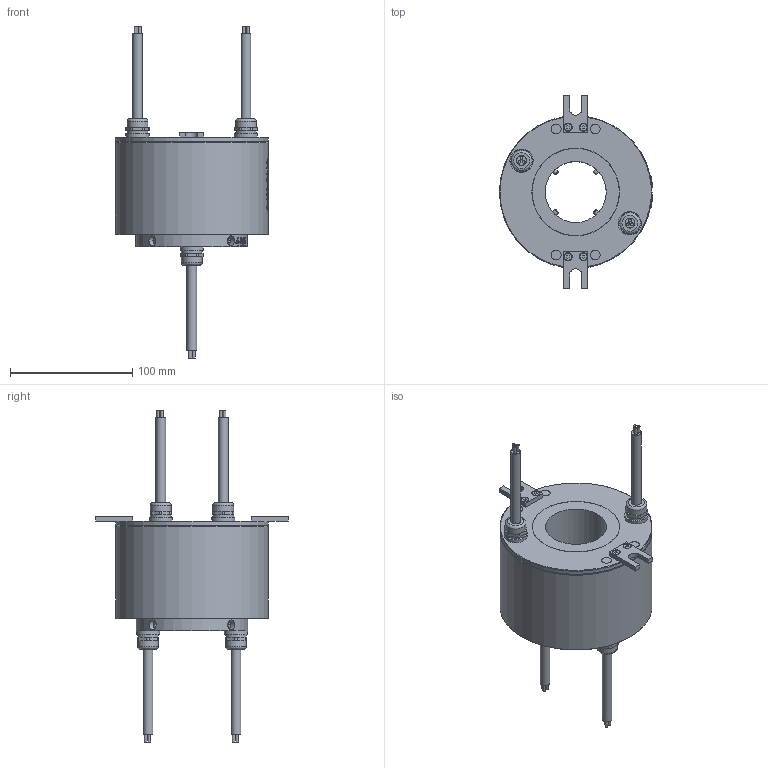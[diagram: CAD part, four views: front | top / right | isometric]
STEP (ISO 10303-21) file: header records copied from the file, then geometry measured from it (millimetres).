
FILE_DESCRIPTION(/* description */ (''),/* implementation_level */ '2;1');
FILE_NAME(/* name */ 'HDF50125-0610-3D模型.stp',/* time_stamp */ '2025-09-25T14:40:33+08:00',/* author */ (''),/* organization */ (''),/* preprocessor_version */ 'ST-DEVELOPER v16.7',/* originating_system */ 'SIEMENS PLM Software NX 12.0',/* authorisation */ '');
FILE_SCHEMA (('AUTOMOTIVE_DESIGN { 1 0 10303 214 3 1 1 1 }'));
Length unit declared in the file: millimetre
Products named in the file (1): Admi4334A7244g56
Bounding box: 125.46 x 158 x 272 mm (x, y, z)
Volume: 898772.7 mm3; surface area: 86985.2 mm2
Topology: 1 solids, 1 shells, 883 faces, 2281 edges, 1501 vertices
Faces by surface type: plane 424, extrusion 313, cylinder 95, bspline 30, cone 13, torus 8
Full cylindrical faces by diameter (mm): 2.2 x12, 4 x4, 6 x4, 7 x4, 8 x12, 17 x8, 19 x4, 50 x1, 71.4 x1, 71.8 x1, 91.4 x1, 91.8 x1, 102.4 x1, 125 x2
Entity records: 32234 total; most frequent: CARTESIAN_POINT 13465, ORIENTED_EDGE 4362, DIRECTION 2623, EDGE_CURVE 2181, B_SPLINE_CURVE_WITH_KNOTS 1645, VERTEX_POINT 1478, EDGE_LOOP 1063, AXIS2_PLACEMENT_3D 920
